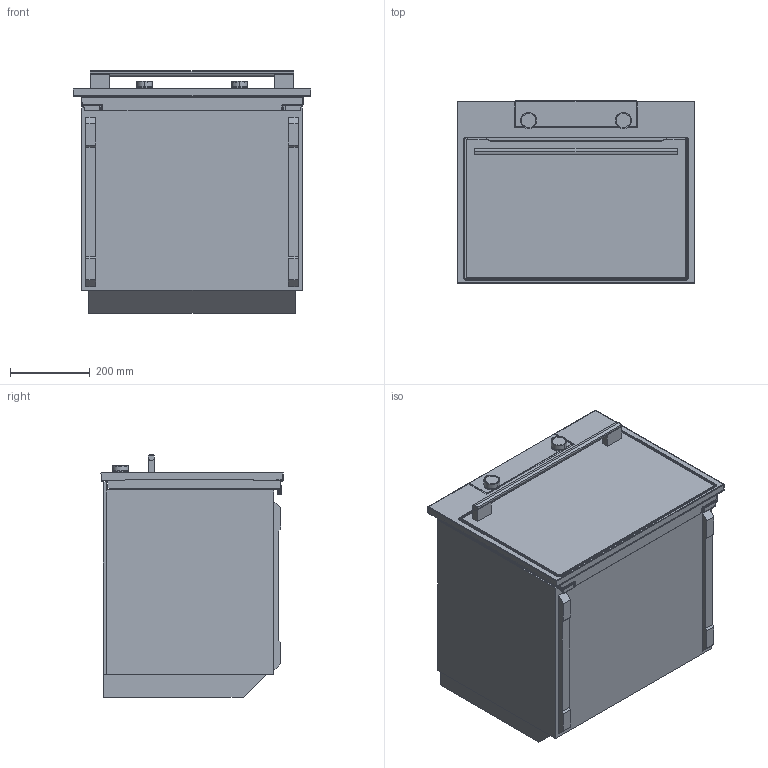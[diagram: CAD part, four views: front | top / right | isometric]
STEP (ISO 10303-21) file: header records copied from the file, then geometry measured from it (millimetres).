
FILE_DESCRIPTION (( 'STEP AP203' ), '1' );
FILE_NAME ('503296_OM8487S.STEP', '2017-09-13T14:40:25', ( '' ), ( '' ), 'SwSTEP 2.0', 'SolidWorks 2016', '' );
FILE_SCHEMA (( 'CONFIG_CONTROL_DESIGN' ));
Length unit declared in the file: millimetre
Products named in the file (24): OTHERS^DOR FIX FRAME 45 STEAM_001_FIX FRAME 45 STEAM; PECICA; 001_FIX FRAME 45 STEAM.sldasm-Part-22-1; 001_FIX FRAME 45 STEAM.sldasm-Part-8; 002.sldasm-Part-388; 00_FIX FRAME 45 MF; 001_FIX FRAME 45 STEAM.sldasm-Part-25; OBOD; OVEN 45 MATRIX MF; 001_FIX FRAME 45 STEAM.sldasm-Part-28; 001_FIX FRAME 45 STEAM.sldasm-Part-50; 503296_OM8487S; HANDLE MATRIX ^DOR FIX FRAME 45 STEAM_001_FIX FRAME 45 STEAM; DOOR GLASS STEAM; DOR FIX FRAME 45 STEAM^001_FIX FRAME 45 STEAM; 001_FIX FRAME 45 STEAM.sldasm-Part-14; BIO 45 ST Dot matrix G.sldasm-Part-91-1; 003_FIX FRAME 60 STEAM.sldasm-Part-32; 001_FIX FRAME 45 STEAM.sldasm-Part-15; BIO 45 ST Dot matrix G.sldasm-Part-121-1; 003_FIX FRAME 60 STEAM.sldasm-Part-35; 001_FIX FRAME 45 STEAM.sldasm-Part-9-1; OHISJE PECICE 45 ST; KNOB MATRIX
Assembly tree (24 placements, depth 6):
  503296_OM8487S
    OVEN 45 MATRIX MF
      PECICA
        OHISJE PECICE 45 ST
          BIO 45 ST Dot matrix G.sldasm-Part-91-1
          BIO 45 ST Dot matrix G.sldasm-Part-121-1
      OBOD
        002.sldasm-Part-388
      00_FIX FRAME 45 MF
        001_FIX FRAME 45 STEAM.sldasm-Part-50
        DOR FIX FRAME 45 STEAM^001_FIX FRAME 45 STEAM
          DOOR GLASS STEAM
          OTHERS^DOR FIX FRAME 45 STEAM_001_FIX FRAME 45 STEAM
            001_FIX FRAME 45 STEAM.sldasm-Part-14
            001_FIX FRAME 45 STEAM.sldasm-Part-15
            001_FIX FRAME 45 STEAM.sldasm-Part-9-1
          HANDLE MATRIX ^DOR FIX FRAME 45 STEAM_001_FIX FRAME 45 STEAM
            001_FIX FRAME 45 STEAM.sldasm-Part-8
            001_FIX FRAME 45 STEAM.sldasm-Part-25
            001_FIX FRAME 45 STEAM.sldasm-Part-28
        KNOB MATRIX  x2
          003_FIX FRAME 60 STEAM.sldasm-Part-32
          003_FIX FRAME 60 STEAM.sldasm-Part-35
        001_FIX FRAME 45 STEAM.sldasm-Part-22-1
Bounding box: 597 x 457.9 x 610.67 mm (x, y, z)
Volume: 124831324.4 mm3; surface area: 2978421 mm2
Topology: 16 solids, 18 shells, 528 faces, 1356 edges, 867 vertices
Faces by surface type: plane 246, cylinder 210, bspline 46, torus 20, sphere 6
Entity records: 19587 total; most frequent: CARTESIAN_POINT 4716, ORIENTED_EDGE 2626, DIRECTION 2552, EDGE_CURVE 1313, AXIS2_PLACEMENT_3D 874, VERTEX_POINT 841, VECTOR 804, LINE 804
